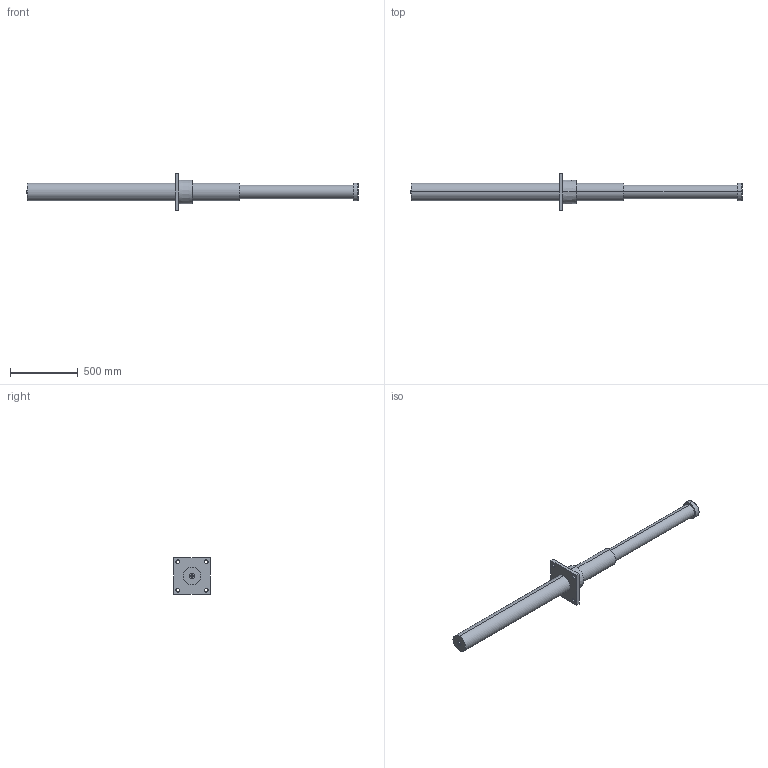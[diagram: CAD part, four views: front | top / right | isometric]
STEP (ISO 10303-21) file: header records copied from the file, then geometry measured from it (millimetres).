
FILE_DESCRIPTION (( 'STEP AP214' ), '1' );
FILE_NAME ('LDH130X800FF.STEP', '2019-01-21T05:02:00', ( 'user' ), ( 'Microsoft' ), 'SwSTEP 2.0', 'SolidWorks 2016', '' );
FILE_SCHEMA (( 'AUTOMOTIVE_DESIGN' ));
Length unit declared in the file: millimetre
Products named in the file (1): LDH130X800FF
Bounding box: 2445 x 270 x 270 mm (x, y, z)
Volume: 30251419.4 mm3; surface area: 1107844.9 mm2
Topology: 1 solids, 5 shells, 63 faces, 136 edges, 90 vertices
Faces by surface type: cylinder 30, plane 29, cone 4
Entity records: 1790 total; most frequent: DIRECTION 338, CARTESIAN_POINT 290, ORIENTED_EDGE 272, AXIS2_PLACEMENT_3D 138, EDGE_CURVE 136, VERTEX_POINT 90, EDGE_LOOP 78, CIRCLE 74
